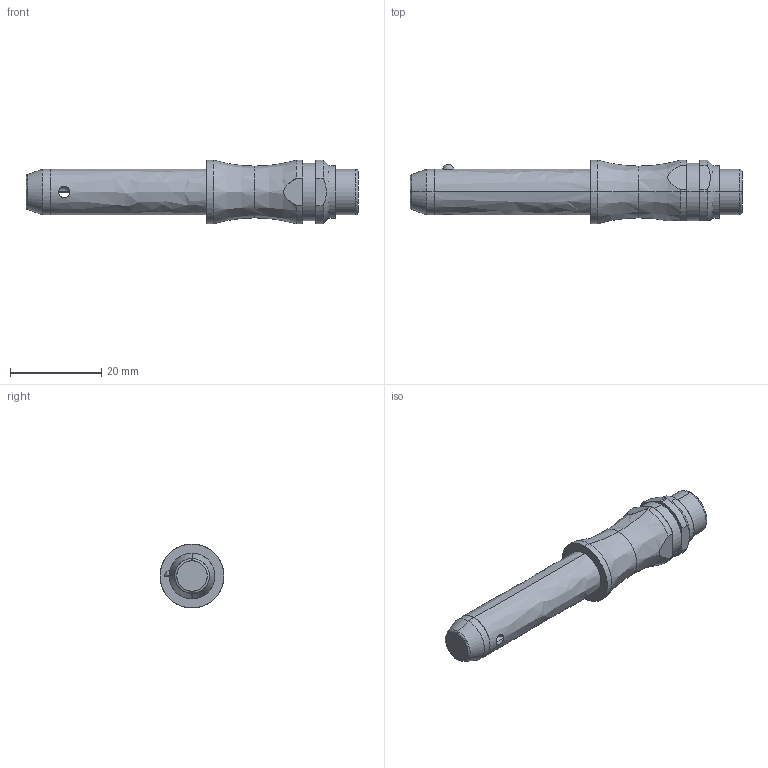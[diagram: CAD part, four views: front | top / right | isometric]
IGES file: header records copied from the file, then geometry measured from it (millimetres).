
Start section: SolidWorks IGES file using analytic representation for surfaces
Global section: file name: C:\Users\ianosborn\Desktop\33194_v2\33196_v2_20250109_IGES\33196.W0024.igs; native system: SolidWorks 2019; preprocessor: SolidWorks 2019; author: IanOsborn; date: 250108.150650; units: millimetre
Bounding box: 72.7 x 14 x 14 mm (x, y, z)
Surface area: 2781.4 mm2 (no closed solid volume)
Topology: 0 solids, 0 shells, 53 faces, 785 edges, 781 vertices
Faces by surface type: revolution 28, bspline 25
